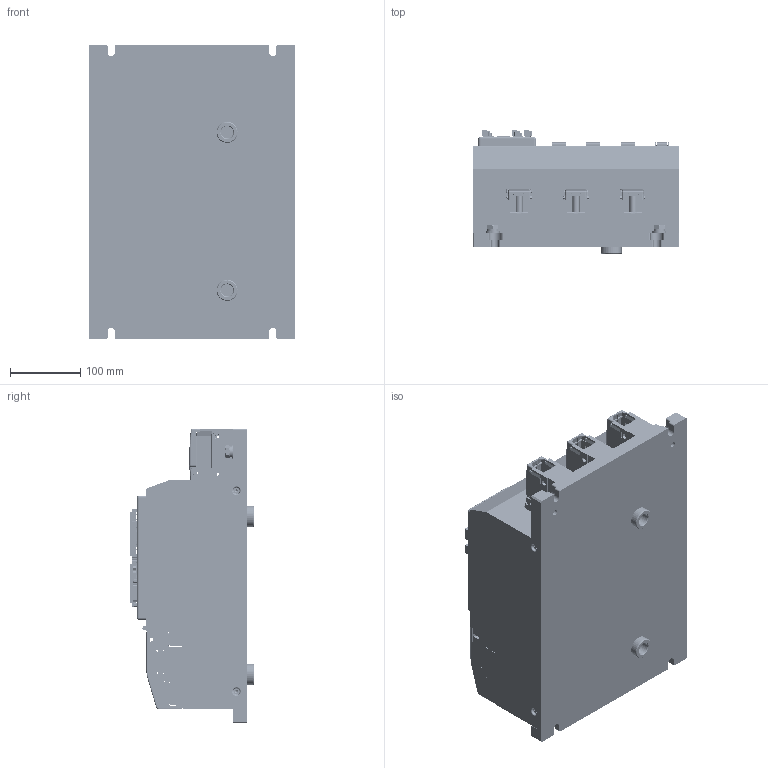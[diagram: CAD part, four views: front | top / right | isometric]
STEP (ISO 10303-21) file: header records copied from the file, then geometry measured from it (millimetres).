
FILE_DESCRIPTION((''),'2;1');
FILE_NAME('61765N-2_SW0001','2019-04-18T',('songbofeng'),(''),'PRO/ENGINEER BY PARAMETRIC TECHNOLOGY CORPORATION, 2010430','PRO/ENGINEER BY PARAMETRIC TECHNOLOGY CORPORATION, 2010430','');
FILE_SCHEMA(('AUTOMOTIVE_DESIGN_CC2 { 1 2 10303 214 -1 1 5 2 }'));
Products named in the file (1): 61765N-2_SW0001
Bounding box: 294 x 176.7 x 420 mm (x, y, z)
Surface area: 1376805.4 mm2 (no closed solid volume)
Topology: 0 solids, 743 shells, 8498 faces, 34049 edges, 25648 vertices
Faces by surface type: plane 4847, cylinder 2450, torus 565, cone 413, bspline 171, sphere 34, extrusion 18
Entity records: 533485 total; most frequent: CARTESIAN_POINT 107273, DIRECTION 54831, ORIENTED_EDGE 50959, PRESENTATION_STYLE_ASSIGNMENT 41032, STYLED_ITEM 33908, CURVE_STYLE 33819, EDGE_CURVE 33816, VERTEX_POINT 25611
